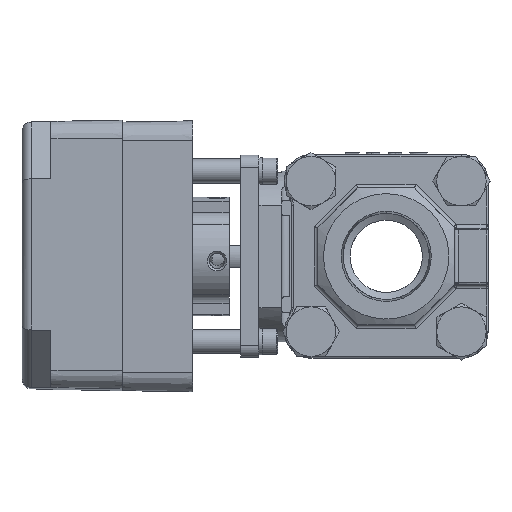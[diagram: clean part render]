
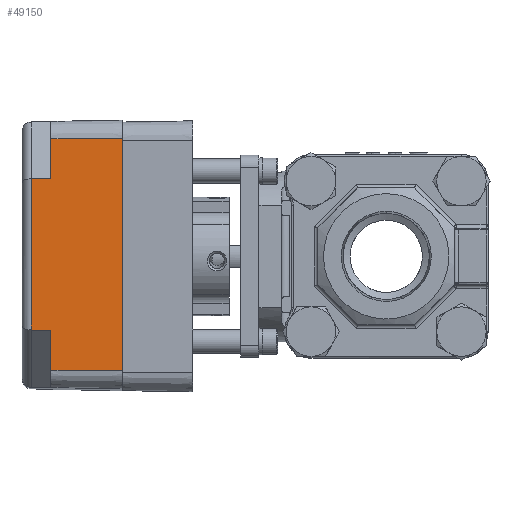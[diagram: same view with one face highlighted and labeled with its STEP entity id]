
A CAD part, left-side view. The second image highlights one B-rep face of the part: STEP entity #49150.
In plain terms, the highlighted planar face has unit normal (-1, 0.018, 0.005) as drawn and (-1, 0.017, 0) by its records, which use the part's own axes.
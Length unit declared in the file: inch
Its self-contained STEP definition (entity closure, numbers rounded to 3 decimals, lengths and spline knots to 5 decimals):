
#1521 = DIRECTION ( 'NONE',  ( -1., 0.017, 0. ) ) ;
#2330 = VECTOR ( 'NONE', #46312, 39.37008 ) ;
#2443 = CARTESIAN_POINT ( 'NONE',  ( -1.97953, 0., -1.19872 ) ) ;
#3817 = ORIENTED_EDGE ( 'NONE', *, *, #35448, .T. ) ;
#5262 = DIRECTION ( 'NONE',  ( 0.017, 1., -0.007 ) ) ;
#5649 = FACE_OUTER_BOUND ( 'NONE', #18787, .T. ) ;
#5835 = CARTESIAN_POINT ( 'NONE',  ( -1.97953, 0., -1.19872 ) ) ;
#5889 = CARTESIAN_POINT ( 'NONE',  ( -1.97953, 0., 1.19872 ) ) ;
#6053 = CARTESIAN_POINT ( 'NONE',  ( -1.96143, 1.03699, -0.78282 ) ) ;
#7369 = DIRECTION ( 'NONE',  ( 0., 0., -1. ) ) ;
#8006 = ORIENTED_EDGE ( 'NONE', *, *, #36537, .T. ) ;
#8138 = VERTEX_POINT ( 'NONE', #10469 ) ;
#10406 = AXIS2_PLACEMENT_3D ( 'NONE', #39395, #1521, #18392 ) ;
#10469 = CARTESIAN_POINT ( 'NONE',  ( -1.96661, 0.74, 1.19872 ) ) ;
#11243 = DIRECTION ( 'NONE',  ( 0., 0., 1. ) ) ;
#11955 = VECTOR ( 'NONE', #5262, 39.37008 ) ;
#12393 = VERTEX_POINT ( 'NONE', #5835 ) ;
#13629 = VERTEX_POINT ( 'NONE', #39385 ) ;
#14107 = CARTESIAN_POINT ( 'NONE',  ( -1.96309, 0.94175, -1.19872 ) ) ;
#14217 = VECTOR ( 'NONE', #11243, 39.37008 ) ;
#15242 = VERTEX_POINT ( 'NONE', #39034 ) ;
#15906 = VECTOR ( 'NONE', #50272, 39.37008 ) ;
#16578 = LINE ( 'NONE', #33401, #15906 ) ;
#18261 = ORIENTED_EDGE ( 'NONE', *, *, #32743, .F. ) ;
#18392 = DIRECTION ( 'NONE',  ( -0.017, -1., 0. ) ) ;
#18477 = ORIENTED_EDGE ( 'NONE', *, *, #32641, .T. ) ;
#18787 = EDGE_LOOP ( 'NONE', ( #35372, #18477, #45492, #31007, #18261, #53574, #8006, #3817 ) ) ;
#19312 = DIRECTION ( 'NONE',  ( 0.017, 1., 0. ) ) ;
#19923 = CARTESIAN_POINT ( 'NONE',  ( -1.96661, 0.74, 0.78496 ) ) ;
#21461 = EDGE_CURVE ( 'NONE', #13629, #23545, #43925, .T. ) ;
#22521 = PLANE ( 'NONE',  #10406 ) ;
#22918 = DIRECTION ( 'NONE',  ( -0.017, -1., -0.007 ) ) ;
#23545 = VERTEX_POINT ( 'NONE', #50828 ) ;
#24206 = VERTEX_POINT ( 'NONE', #19923 ) ;
#24936 = VERTEX_POINT ( 'NONE', #52157 ) ;
#25067 = EDGE_CURVE ( 'NONE', #15242, #23545, #32221, .T. ) ;
#26272 = LINE ( 'NONE', #43133, #11955 ) ;
#28374 = LINE ( 'NONE', #45249, #48186 ) ;
#29445 = CARTESIAN_POINT ( 'NONE',  ( -1.97953, 0., 1.19872 ) ) ;
#30945 = DIRECTION ( 'NONE',  ( 0., 0., -1. ) ) ;
#31007 = ORIENTED_EDGE ( 'NONE', *, *, #25067, .F. ) ;
#32221 = LINE ( 'NONE', #49095, #14217 ) ;
#32641 = EDGE_CURVE ( 'NONE', #24936, #13629, #51956, .T. ) ;
#32743 = EDGE_CURVE ( 'NONE', #12393, #15242, #40319, .T. ) ;
#33173 = VECTOR ( 'NONE', #19312, 39.37008 ) ;
#33401 = CARTESIAN_POINT ( 'NONE',  ( -1.97953, 0., -1.19872 ) ) ;
#34915 = EDGE_CURVE ( 'NONE', #24206, #24936, #26272, .T. ) ;
#35372 = ORIENTED_EDGE ( 'NONE', *, *, #34915, .T. ) ;
#35448 = EDGE_CURVE ( 'NONE', #8138, #24206, #28374, .T. ) ;
#35835 = VECTOR ( 'NONE', #30945, 39.37008 ) ;
#36537 = EDGE_CURVE ( 'NONE', #36951, #8138, #54611, .T. ) ;
#36951 = VERTEX_POINT ( 'NONE', #5889 ) ;
#39034 = CARTESIAN_POINT ( 'NONE',  ( -1.96661, 0.74, -1.19872 ) ) ;
#39385 = CARTESIAN_POINT ( 'NONE',  ( -1.96309, 0.94175, -0.78351 ) ) ;
#39395 = CARTESIAN_POINT ( 'NONE',  ( -1.96137, 1.04, -1.19872 ) ) ;
#40319 = LINE ( 'NONE', #2443, #33173 ) ;
#43133 = CARTESIAN_POINT ( 'NONE',  ( -1.96112, 1.05432, 0.78269 ) ) ;
#43502 = EDGE_CURVE ( 'NONE', #12393, #36951, #16578, .T. ) ;
#43925 = LINE ( 'NONE', #6053, #52342 ) ;
#45249 = CARTESIAN_POINT ( 'NONE',  ( -1.96661, 0.74, -1.19872 ) ) ;
#45492 = ORIENTED_EDGE ( 'NONE', *, *, #21461, .T. ) ;
#46312 = DIRECTION ( 'NONE',  ( 0.017, 1., 0. ) ) ;
#48186 = VECTOR ( 'NONE', #7369, 39.37008 ) ;
#49095 = CARTESIAN_POINT ( 'NONE',  ( -1.96661, 0.74, -1.19872 ) ) ;
#49150 = ADVANCED_FACE ( 'NONE', ( #5649 ), #22521, .T. ) ;
#50272 = DIRECTION ( 'NONE',  ( 0., 0., 1. ) ) ;
#50828 = CARTESIAN_POINT ( 'NONE',  ( -1.96661, 0.74, -0.78496 ) ) ;
#51956 = LINE ( 'NONE', #14107, #35835 ) ;
#52157 = CARTESIAN_POINT ( 'NONE',  ( -1.96309, 0.94175, 0.78351 ) ) ;
#52342 = VECTOR ( 'NONE', #22918, 39.37008 ) ;
#53574 = ORIENTED_EDGE ( 'NONE', *, *, #43502, .T. ) ;
#54611 = LINE ( 'NONE', #29445, #2330 ) ;
